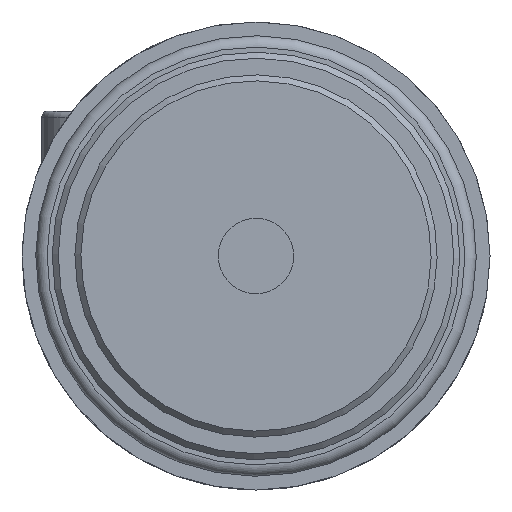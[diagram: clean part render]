
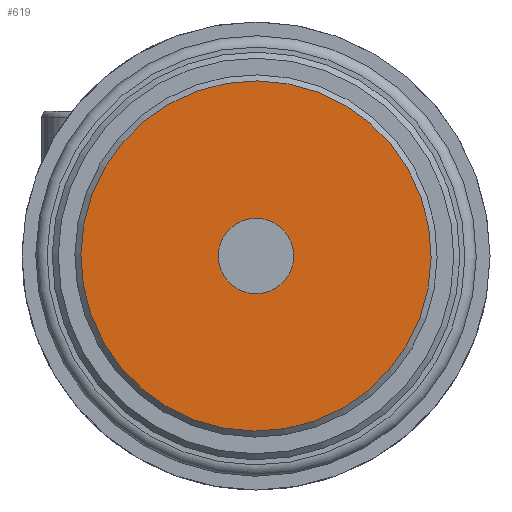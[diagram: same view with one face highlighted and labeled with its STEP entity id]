
A CAD part, left-side view. The second image highlights one B-rep face of the part: STEP entity #619.
In plain terms, the highlighted planar face has unit normal (-1, 0, 0) as drawn and (1, 0, 0) by its records, which use the part's own axes.
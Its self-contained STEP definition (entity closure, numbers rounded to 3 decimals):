
#619 = ADVANCED_FACE( '', ( #1322, #1323 ), #1324, .T. );
#1322 = FACE_OUTER_BOUND( '', #2094, .T. );
#1323 = FACE_BOUND( '', #2095, .T. );
#1324 = PLANE( '', #2096 );
#2094 = EDGE_LOOP( '', ( #3347 ) );
#2095 = EDGE_LOOP( '', ( #3348 ) );
#2096 = AXIS2_PLACEMENT_3D( '', #3349, #3350, #3351 );
#3347 = ORIENTED_EDGE( '', *, *, #4308, .T. );
#3348 = ORIENTED_EDGE( '', *, *, #4309, .T. );
#3349 = CARTESIAN_POINT( '', ( 13., 0., 6. ) );
#3350 = DIRECTION( '', ( 1., 0., 0. ) );
#3351 = DIRECTION( '', ( 0., 0., -1. ) );
#4308 = EDGE_CURVE( '', #5091, #5091, #5092, .T. );
#4309 = EDGE_CURVE( '', #5093, #5093, #5094, .T. );
#5091 = VERTEX_POINT( '', #6130 );
#5092 = CIRCLE( '', #6131, 5.8 );
#5093 = VERTEX_POINT( '', #6132 );
#5094 = CIRCLE( '', #6133, 1.25 );
#6130 = CARTESIAN_POINT( '', ( 13., 0., -5.8 ) );
#6131 = AXIS2_PLACEMENT_3D( '', #6968, #6969, #6970 );
#6132 = CARTESIAN_POINT( '', ( 13., 0., 1.25 ) );
#6133 = AXIS2_PLACEMENT_3D( '', #6971, #6972, #6973 );
#6968 = CARTESIAN_POINT( '', ( 13., 0., 0. ) );
#6969 = DIRECTION( '', ( 1., 0., 0. ) );
#6970 = DIRECTION( '', ( 0., 0., -1. ) );
#6971 = CARTESIAN_POINT( '', ( 13., 0., 0. ) );
#6972 = DIRECTION( '', ( -1., 0., 0. ) );
#6973 = DIRECTION( '', ( 0., 0., 1. ) );
